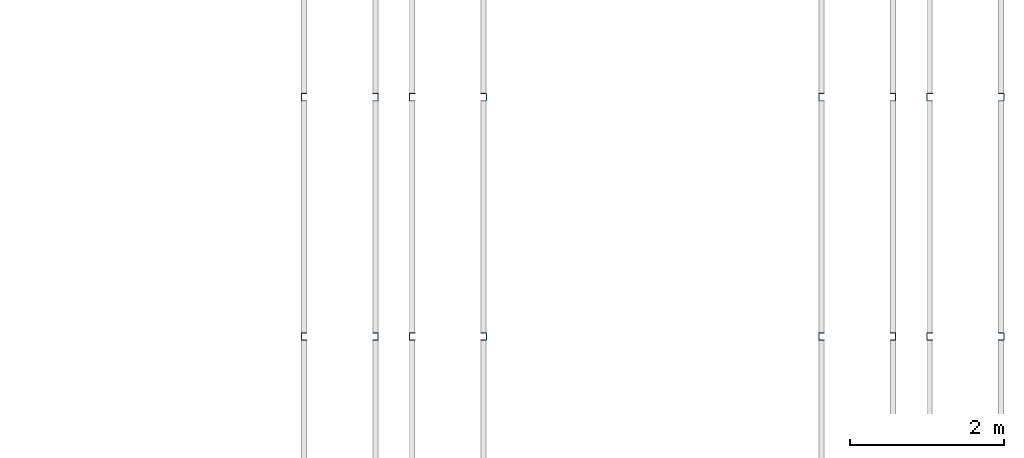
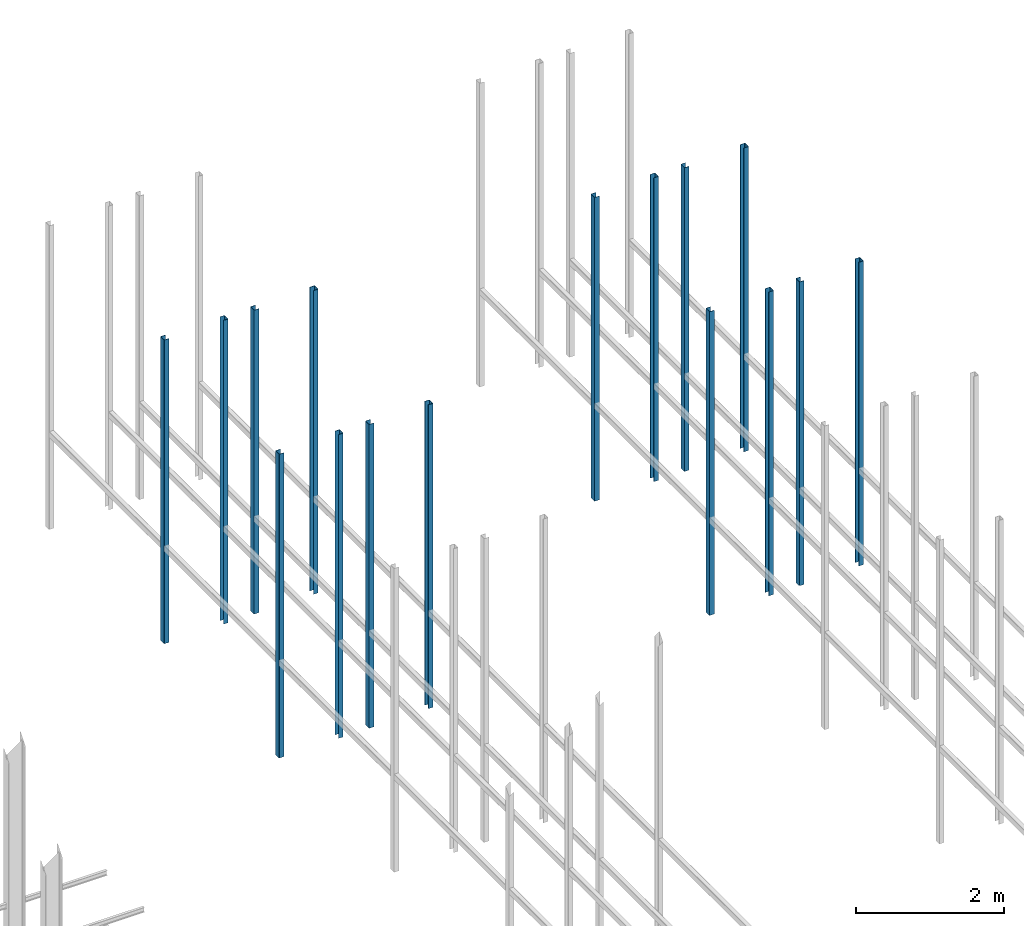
# One storey, part 62 of 302: 16 columns.
"""IFC2X3 building model written with IfcOpenShell, lengths in metres."""

from ifc_helpers import new_model, entity, si_unit, converted_unit, derived_unit, direction, frame, frame_2d, origin, place, context, subcontext, project, spatial, polyline, circle_curve, parameter, trimmed, segment, composite_curve, outline, extrude, source, transform, mapped, material, type_object, type_shapes, element, save


model = new_model("IFC2X3")

# Units and contexts
model_context = context("Model", 3, precision=1e-05, world=origin(), true_north=direction((6.12303176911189e-17, 1.0)))
body_context = subcontext(model_context, "Body", "Model", "MODEL_VIEW")
ifc_project = project(units=[si_unit("LENGTHUNIT", "METRE"), si_unit("AREAUNIT", "SQUARE_METRE"), si_unit("VOLUMEUNIT", "CUBIC_METRE"), converted_unit("PLANEANGLEUNIT", "DEGREE", entity("IfcRatioMeasure", 0.0174532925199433), si_unit("PLANEANGLEUNIT", "RADIAN"), dimensions=[0, 0, 0, 0, 0, 0, 0]), si_unit("MASSUNIT", "GRAM", prefix="KILO"), derived_unit("MASSDENSITYUNIT", [(si_unit("MASSUNIT", "GRAM", prefix="KILO"), 1), (si_unit("LENGTHUNIT", "METRE"), -3)]), derived_unit("MOMENTOFINERTIAUNIT", [(si_unit("LENGTHUNIT", "METRE"), 4)]), si_unit("TIMEUNIT", "SECOND"), si_unit("FREQUENCYUNIT", "HERTZ"), si_unit("THERMODYNAMICTEMPERATUREUNIT", "DEGREE_CELSIUS"), derived_unit("THERMALTRANSMITTANCEUNIT", [(si_unit("MASSUNIT", "GRAM", prefix="KILO"), 1), (si_unit("THERMODYNAMICTEMPERATUREUNIT", "KELVIN"), -1), (si_unit("TIMEUNIT", "SECOND"), -3)]), derived_unit("VOLUMETRICFLOWRATEUNIT", [(si_unit("LENGTHUNIT", "METRE"), 3), (si_unit("TIMEUNIT", "SECOND"), -1)]), si_unit("ELECTRICCURRENTUNIT", "AMPERE"), si_unit("ELECTRICVOLTAGEUNIT", "VOLT"), si_unit("POWERUNIT", "WATT"), si_unit("FORCEUNIT", "NEWTON", prefix="KILO"), si_unit("ILLUMINANCEUNIT", "LUX"), si_unit("LUMINOUSFLUXUNIT", "LUMEN"), si_unit("LUMINOUSINTENSITYUNIT", "CANDELA"), derived_unit("USERDEFINED", [(si_unit("MASSUNIT", "GRAM", prefix="KILO"), -1), (si_unit("LENGTHUNIT", "METRE"), -2), (si_unit("TIMEUNIT", "SECOND"), 3), (si_unit("LUMINOUSFLUXUNIT", "LUMEN"), 1)]), derived_unit("LINEARVELOCITYUNIT", [(si_unit("LENGTHUNIT", "METRE"), 1), (si_unit("TIMEUNIT", "SECOND"), -1)]), si_unit("PRESSUREUNIT", "PASCAL"), derived_unit("USERDEFINED", [(si_unit("LENGTHUNIT", "METRE"), -2), (si_unit("MASSUNIT", "GRAM", prefix="KILO"), 1), (si_unit("TIMEUNIT", "SECOND"), -2)]), derived_unit("LINEARFORCEUNIT", [(si_unit("MASSUNIT", "GRAM", prefix="KILO"), 1), (si_unit("LENGTHUNIT", "METRE"), 1), (si_unit("TIMEUNIT", "SECOND"), -2), (si_unit("LENGTHUNIT", "METRE"), -1)]), derived_unit("PLANARFORCEUNIT", [(si_unit("MASSUNIT", "GRAM", prefix="KILO"), 1), (si_unit("LENGTHUNIT", "METRE"), 1), (si_unit("TIMEUNIT", "SECOND"), -2), (si_unit("LENGTHUNIT", "METRE"), -2)])], contexts=[model_context])

# Site, building, storey
site_placement = place(None, origin())
site = spatial("IfcSite", under=ifc_project, at=site_placement, Name="Default", CompositionType="ELEMENT")
building_placement = place(site_placement, origin())
building = spatial("IfcBuilding", under=site, at=building_placement, CompositionType="ELEMENT")
storey_placement = place(building_placement, frame((0.0, 0.0, -1.3)))
storey = spatial("IfcBuildingStorey", under=building, at=storey_placement, Name="00_EG", CompositionType="ELEMENT", Elevation=-1.3)

# Columns
ifc_material = material(Name="Metall - Baustahl S235")
column_type_1 = type_object("IfcColumnType", Name="Leichter Stahl Schlossschrauben Stütze:C 100", PredefinedType="COLUMN", material=ifc_material)
shared_shape_1 = source(origin(), body_context, "Body", "SweptSolid", [
    extrude(outline(composite_curve([segment(polyline([(-0.0469749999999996, -0.0499999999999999), (0.0214500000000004, -0.0499999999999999)]), True, "CONTINUOUS"), segment(trimmed(circle_curve(frame_2d((0.0214500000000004, -0.0434249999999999), x_axis=(0.0, -1.0)), 0.00657500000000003), [parameter(0.0)], [parameter(89.9999999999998)], True, "PARAMETER"), True, "CONTINUOUS"), segment(polyline([(0.0280250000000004, -0.0434249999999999), (0.0280250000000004, 0.0434250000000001)]), True, "CONTINUOUS"), segment(trimmed(circle_curve(frame_2d((0.0214500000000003, 0.0434250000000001), x_axis=(1.0, 0.0)), 0.0065750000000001), [parameter(0.0)], [parameter(89.9999999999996)], True, "PARAMETER"), True, "CONTINUOUS"), segment(polyline([(0.0214500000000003, 0.0500000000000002), (-0.0469750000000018, 0.0500000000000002)]), True, "CONTINUOUS"), segment(polyline([(-0.0469750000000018, 0.0500000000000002), (-0.0469750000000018, 0.0450000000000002)]), True, "CONTINUOUS"), segment(polyline([(-0.0469750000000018, 0.0450000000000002), (0.0214500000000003, 0.0450000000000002)]), True, "CONTINUOUS"), segment(trimmed(circle_curve(frame_2d((0.0214500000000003, 0.0434249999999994), x_axis=(0.0, 1.0)), 0.00157500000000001), [parameter(269.999999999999)], [parameter(0.0)], True, "PARAMETER"), False, "CONTINUOUS"), segment(polyline([(0.0230250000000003, 0.0434249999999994), (0.0230250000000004, -0.0434249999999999)]), True, "CONTINUOUS"), segment(trimmed(circle_curve(frame_2d((0.0214500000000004, -0.0434249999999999), x_axis=(1.0, 0.0)), 0.00157500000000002), [parameter(270.0)], [parameter(0.0)], True, "PARAMETER"), False, "CONTINUOUS"), segment(polyline([(0.0214500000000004, -0.0449999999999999), (-0.0469749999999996, -0.0449999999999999)]), True, "CONTINUOUS"), segment(polyline([(-0.0469749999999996, -0.0449999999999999), (-0.0469749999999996, -0.0499999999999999)]), True, "CONTINUOUS")], self_intersect=False)), frame((0.0499999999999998, 0.0280250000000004, -0.0300000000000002), z_axis=(0.0, 0.0, 1.0), x_axis=(0.0, -1.0, 0.0)), (0.0, 0.0, 1.0), 5.0),
])
type_shapes(column_type_1, [shared_shape_1])
for number, where, z_axis, x_axis in (
    (1, (-159.193311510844, 57.6480889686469, 1.3), (0.0, 0.0, 1.0), (0.0, -1.0, 0.0)),
    (2, (-157.793311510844, 57.6480889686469, 1.3), (0.0, 0.0, 1.0), (0.0, -1.0, 0.0)),
    (3, (-159.193311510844, 60.7480889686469, 1.3), (0.0, 0.0, 1.0), (0.0, -1.0, 0.0)),
    (4, (-157.793311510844, 60.7480889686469, 1.3), (0.0, 0.0, 1.0), (0.0, -1.0, 0.0)),
    (5, (-152.493311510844, 57.6480889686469, 1.3), (0.0, 0.0, 1.0), (0.0, -1.0, 0.0)),
    (6, (-151.093311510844, 57.6480889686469, 1.3), (0.0, 0.0, 1.0), (0.0, -1.0, 0.0)),
    (7, (-152.493311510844, 60.7480889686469, 1.3), (0.0, 0.0, 1.0), (0.0, -1.0, 0.0)),
    (8, (-151.093311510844, 60.7480889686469, 1.3), (0.0, 0.0, 1.0), (0.0, -1.0, 0.0)),
):
    element("IfcColumn", number, at=place(storey_placement, frame(where, z_axis=z_axis, x_axis=x_axis)), inside=storey, type_object=column_type_1, material=ifc_material, Name="Leichter Stahl Schlossschrauben Stütze:C 100", ObjectType="Leichter Stahl Schlossschrauben Stütze:C 100", context=body_context, shape_type="MappedRepresentation", body=[
        mapped(shared_shape_1, transform((0.0, 0.0, 0.0), scale=1.0)),
    ])
column_type_2 = type_object("IfcColumnType", Name="Leichter Stahl Schlossschrauben Stütze:C 100", PredefinedType="COLUMN", material=ifc_material)
shared_shape_2 = source(origin(), body_context, "Body", "SweptSolid", [
    extrude(outline(composite_curve([segment(polyline([(-0.0214500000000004, -0.0499999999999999), (0.0469749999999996, -0.0499999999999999)]), True, "CONTINUOUS"), segment(polyline([(0.0469749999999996, -0.0499999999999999), (0.0469749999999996, -0.0449999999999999)]), True, "CONTINUOUS"), segment(polyline([(0.0469749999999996, -0.0449999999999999), (-0.0214500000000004, -0.045)]), True, "CONTINUOUS"), segment(trimmed(circle_curve(frame_2d((-0.0214500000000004, -0.043425), x_axis=(0.0, -1.0)), 0.00157500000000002), [parameter(270.0)], [parameter(0.0)], True, "PARAMETER"), False, "CONTINUOUS"), segment(polyline([(-0.0230250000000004, -0.0434249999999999), (-0.0230250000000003, 0.0434249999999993)]), True, "CONTINUOUS"), segment(trimmed(circle_curve(frame_2d((-0.0214500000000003, 0.0434249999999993), x_axis=(-1.0, 0.0)), 0.00157500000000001), [parameter(269.999999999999)], [parameter(0.0)], True, "PARAMETER"), False, "CONTINUOUS"), segment(polyline([(-0.0214500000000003, 0.0450000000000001), (0.0469750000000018, 0.0450000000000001)]), True, "CONTINUOUS"), segment(polyline([(0.0469750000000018, 0.0450000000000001), (0.0469750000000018, 0.0500000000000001)]), True, "CONTINUOUS"), segment(polyline([(0.0469750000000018, 0.0500000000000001), (-0.0214500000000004, 0.0500000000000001)]), True, "CONTINUOUS"), segment(trimmed(circle_curve(frame_2d((-0.0214500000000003, 0.043425), x_axis=(0.0, 1.0)), 0.0065750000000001), [parameter(0.0)], [parameter(89.9999999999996)], True, "PARAMETER"), True, "CONTINUOUS"), segment(polyline([(-0.0280250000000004, 0.043425), (-0.0280250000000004, -0.043425)]), True, "CONTINUOUS"), segment(trimmed(circle_curve(frame_2d((-0.0214500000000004, -0.0434249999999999), x_axis=(-1.0, 0.0)), 0.00657500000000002), [parameter(0.0)], [parameter(89.9999999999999)], True, "PARAMETER"), True, "CONTINUOUS")], self_intersect=False)), frame((0.0499999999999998, -0.0280250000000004, -0.0300000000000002), z_axis=(0.0, 0.0, 1.0), x_axis=(0.0, -1.0, 0.0)), (0.0, 0.0, 1.0), 5.0),
])
type_shapes(column_type_2, [shared_shape_2])
for number, where, z_axis, x_axis in (
    (9, (-158.193311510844, 57.6480889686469, 1.3), (0.0, 0.0, 1.0), (0.0, -1.0, 0.0)),
    (10, (-156.793311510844, 57.6480889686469, 1.3), (0.0, 0.0, 1.0), (0.0, -1.0, 0.0)),
    (11, (-158.193311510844, 60.7480889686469, 1.3), (0.0, 0.0, 1.0), (0.0, -1.0, 0.0)),
    (12, (-156.793311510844, 60.7480889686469, 1.3), (0.0, 0.0, 1.0), (0.0, -1.0, 0.0)),
    (13, (-151.493311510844, 57.6480889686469, 1.3), (0.0, 0.0, 1.0), (0.0, -1.0, 0.0)),
    (14, (-150.093311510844, 57.6480889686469, 1.3), (0.0, 0.0, 1.0), (0.0, -1.0, 0.0)),
    (15, (-151.493311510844, 60.7480889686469, 1.3), (0.0, 0.0, 1.0), (0.0, -1.0, 0.0)),
    (16, (-150.093311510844, 60.7480889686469, 1.3), (0.0, 0.0, 1.0), (0.0, -1.0, 0.0)),
):
    element("IfcColumn", number, at=place(storey_placement, frame(where, z_axis=z_axis, x_axis=x_axis)), inside=storey, type_object=column_type_2, material=ifc_material, Name="Leichter Stahl Schlossschrauben Stütze:C 100", ObjectType="Leichter Stahl Schlossschrauben Stütze:C 100", context=body_context, shape_type="MappedRepresentation", body=[
        mapped(shared_shape_2, transform((0.0, 0.0, 0.0), scale=1.0)),
    ])

save(model, "model.ifc")
